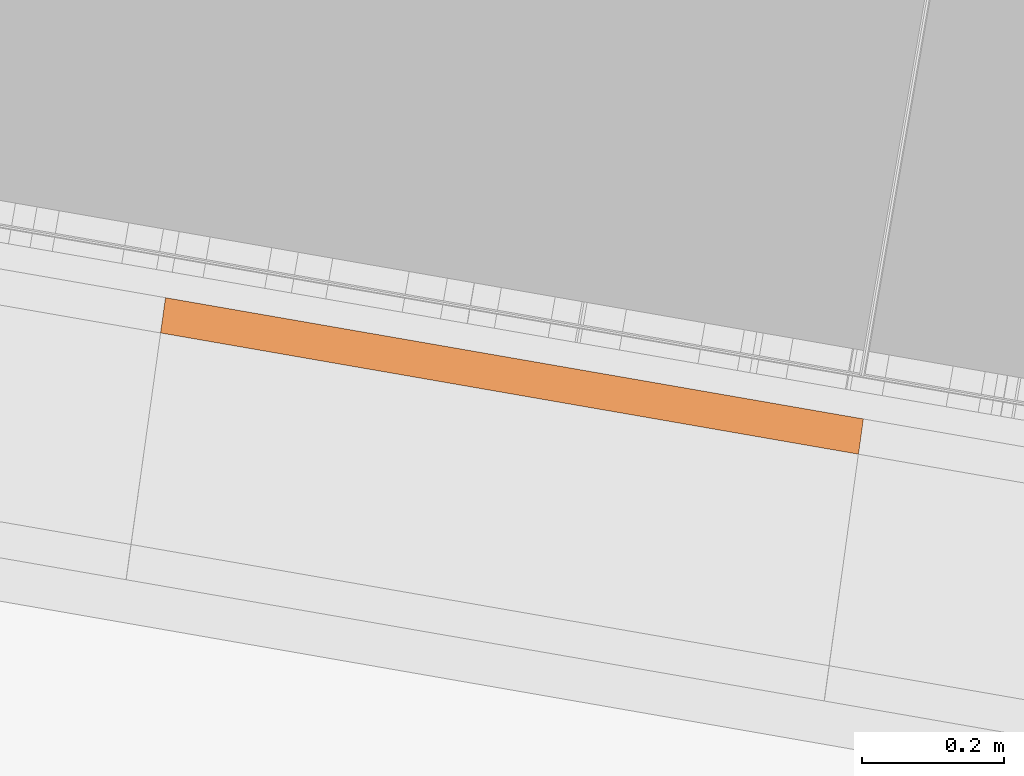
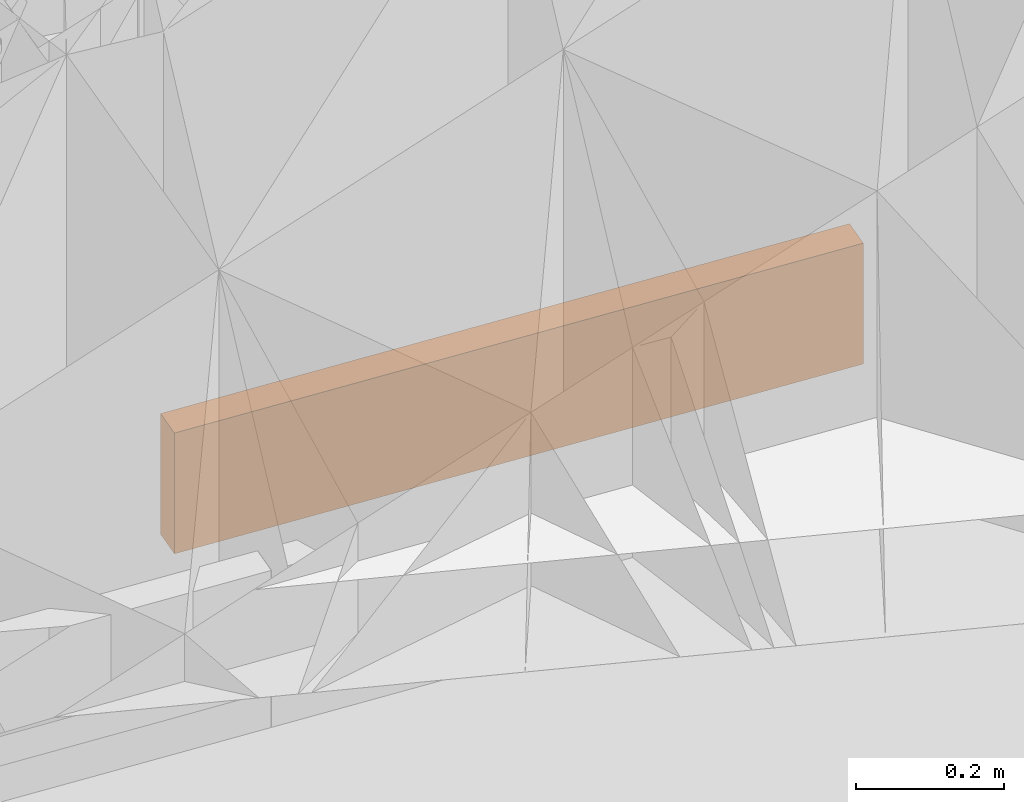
# Not in any storey, part 45 of 46: 1 proxy.
"""IFC4 model written with IfcOpenShell, lengths in metres."""

from ifc_helpers import new_model, si_unit, direction, frame, origin_with_axes, place, context, subcontext, project, spatial, polygons, material, element, save


model = new_model("IFC4")

# Units and contexts
model_context = context("Model", 3, precision=1e-05, world=origin_with_axes(), true_north=direction((0.0, 1.0)))
body_context = subcontext(model_context, "Body", "Model", "MODEL_VIEW")
ifc_project = project(units=[si_unit("VOLUMEUNIT", "CUBIC_METRE"), si_unit("LENGTHUNIT", "METRE"), si_unit("AREAUNIT", "SQUARE_METRE")], contexts=[model_context])

# Site
site_placement = place(None, origin_with_axes())
site = spatial("IfcSite", under=ifc_project, at=site_placement, Name="Lares · Rua das Mercês · artigo 4771")

# Proxy
ifc_material = material(Name="Caleiras · betão", Category="concrete")
proxy_placement = place(site_placement, frame((0.0, 0.0, 0.0), z_axis=(0.0, 0.0, 1.0), x_axis=(1.0, -1.03767253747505e-17, 0.0)))
element("IfcBuildingElementProxy", 1, at=proxy_placement, inside=site, material=ifc_material, Name="Acesso · canal lateral", ObjectType="Acesso · canal lateral", PredefinedType="USERDEFINED", context=body_context, shape_type="Tessellation", body=[
    polygons([(55.8108128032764, 10.7510126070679, 13.8433741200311), (55.8177124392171, 10.800534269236, 13.8433741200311), (56.7981061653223, 10.6302122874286, 13.9178321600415), (56.7912065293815, 10.5806906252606, 13.9178321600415), (55.8108128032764, 10.7510126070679, 14.0433741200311), (55.8177124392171, 10.800534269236, 14.0433741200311), (56.7981061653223, 10.6302122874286, 14.1178321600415), (56.7912065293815, 10.5806906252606, 14.1178321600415)], [[[4, 3, 2, 1]], [[5, 6, 7, 8]], [[1, 2, 6, 5]], [[2, 3, 7, 6]], [[3, 4, 8, 7]], [[4, 1, 5, 8]]]),
])

save(model, "model.ifc")
